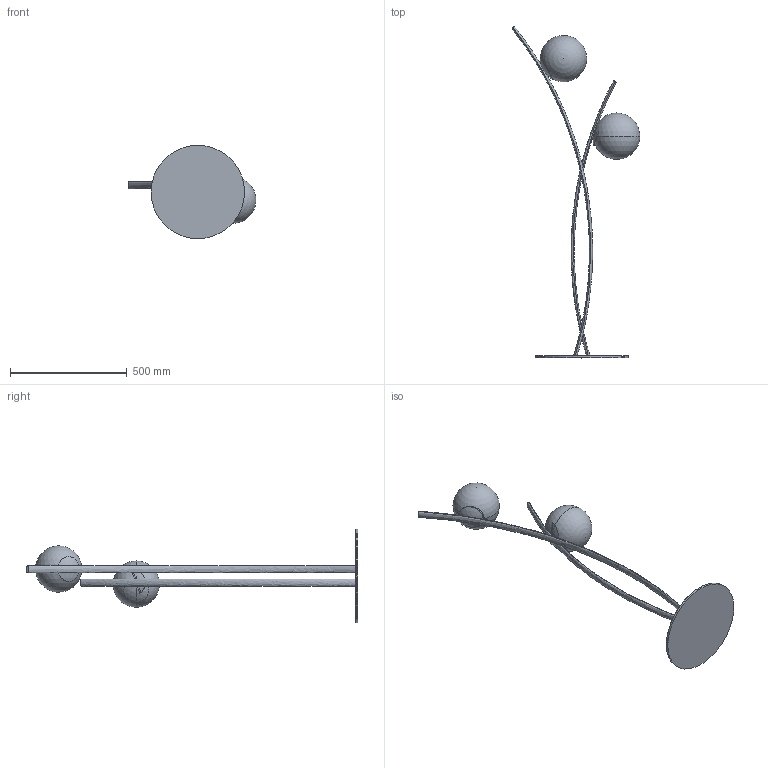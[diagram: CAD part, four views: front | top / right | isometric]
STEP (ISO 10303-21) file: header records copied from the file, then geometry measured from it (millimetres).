
FILE_DESCRIPTION (( 'STEP AP203' ), '1' );
FILE_NAME ('VIDL1_Vida.STEP', '2024-08-06T08:33:55', ( '' ), ( '' ), 'SwSTEP 2.0', 'SolidWorks 2022', '' );
FILE_SCHEMA (( 'CONFIG_CONTROL_DESIGN' ));
Length unit declared in the file: millimetre
Products named in the file (1): VIDL1_Vida
Bounding box: 547.67 x 1422.2 x 400 mm (x, y, z)
Volume: 10411341.5 mm3; surface area: 726532 mm2
Topology: 2 solids, 2 shells, 43 faces, 106 edges, 67 vertices
Faces by surface type: bspline 18, sphere 17, plane 4, cylinder 2, torus 2
Entity records: 7883 total; most frequent: CARTESIAN_POINT 7001, ORIENTED_EDGE 192, DIRECTION 121, EDGE_CURVE 96, VERTEX_POINT 61, AXIS2_PLACEMENT_3D 57, B_SPLINE_CURVE_WITH_KNOTS 51, EDGE_LOOP 47
